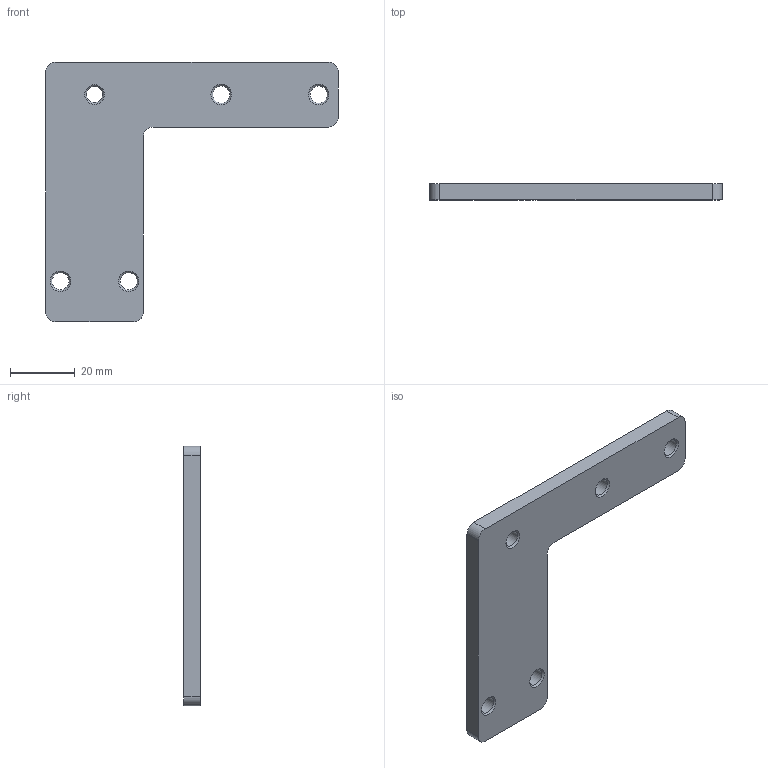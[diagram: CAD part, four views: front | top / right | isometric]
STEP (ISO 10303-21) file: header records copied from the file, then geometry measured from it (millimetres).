
FILE_DESCRIPTION(/* description */ (''),/* implementation_level */ '2;1');
FILE_NAME(/* name */ 'WHEELS-INSERT.05.stp',/* time_stamp */ '2018-05-25T14:08:28+02:00',/* author */ (''),/* organization */ (''),/* preprocessor_version */ 'ST-DEVELOPER v16.7',/* originating_system */ 'SIEMENS PLM Software NX 12.0',/* authorisation */ '');
FILE_SCHEMA (('AP203_CONFIGURATION_CONTROLLED_3D_DESIGN_OF_MECHANICAL_PARTS_AND_ASSEMBLIES_MIM_LF { 1 0 10303 403 2 1 2}'));
Length unit declared in the file: millimetre
Products named in the file (1): turc66A81BAD9zbx
Bounding box: 90 x 5 x 80 mm (x, y, z)
Volume: 17400.1 mm3; surface area: 8996.7 mm2
Topology: 1 solids, 1 shells, 29 faces, 71 edges, 44 vertices
Faces by surface type: cylinder 11, cone 10, plane 8
Full cylindrical faces by diameter (mm): 5 x1, 5.3 x4
Entity records: 904 total; most frequent: DIRECTION 148, CARTESIAN_POINT 130, ORIENTED_EDGE 112, AXIS2_PLACEMENT_3D 62, EDGE_CURVE 56, EDGE_LOOP 54, VERTEX_POINT 44, FACE_BOUND 42
